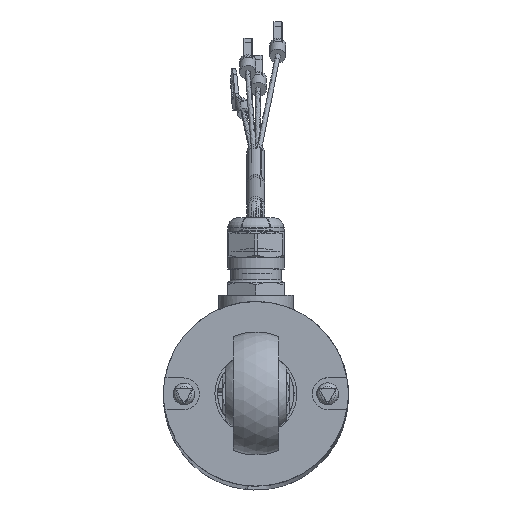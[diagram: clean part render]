
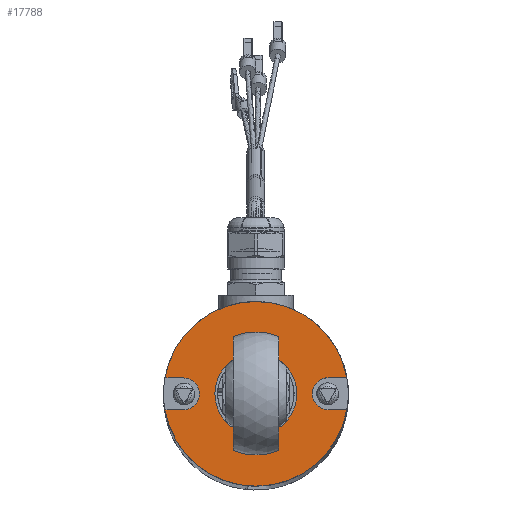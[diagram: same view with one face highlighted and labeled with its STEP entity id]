
A CAD part, top view. The second image highlights one B-rep face of the part: STEP entity #17788.
In plain terms, the highlighted planar face has unit normal (0, 0, 1).
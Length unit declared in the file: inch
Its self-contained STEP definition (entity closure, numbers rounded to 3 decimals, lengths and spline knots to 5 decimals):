
#508=FACE_BOUND('',#2244,.T.);
#631=PLANE('',#19120);
#1182=FACE_OUTER_BOUND('',#2243,.T.);
#2243=EDGE_LOOP('',(#11320,#11321,#11322,#11323,#11324,#11325,#11326,#11327,
#11328));
#2244=EDGE_LOOP('',(#11329));
#3843=CIRCLE('',#19079,0.70866);
#3854=CIRCLE('',#19098,0.70866);
#3856=CIRCLE('',#19100,0.70866);
#3862=CIRCLE('',#19111,0.12303);
#3864=CIRCLE('',#19115,0.12303);
#3866=CIRCLE('',#19121,0.15945);
#4669=LINE('',#25674,#5820);
#4672=LINE('',#25680,#5823);
#4677=LINE('',#25698,#5828);
#4679=LINE('',#25701,#5830);
#5820=VECTOR('',#20943,0.3937);
#5823=VECTOR('',#20948,0.3937);
#5828=VECTOR('',#20969,0.3937);
#5830=VECTOR('',#20973,0.3937);
#6956=VERTEX_POINT('',#25580);
#6957=VERTEX_POINT('',#25582);
#6972=VERTEX_POINT('',#25647);
#6975=VERTEX_POINT('',#25653);
#6976=VERTEX_POINT('',#25655);
#6982=VERTEX_POINT('',#25673);
#6984=VERTEX_POINT('',#25679);
#6986=VERTEX_POINT('',#25689);
#6987=VERTEX_POINT('',#25690);
#6990=VERTEX_POINT('',#25705);
#8627=EDGE_CURVE('',#6957,#6956,#3843,.T.);
#8651=EDGE_CURVE('',#6972,#6957,#3854,.T.);
#8655=EDGE_CURVE('',#6976,#6975,#3856,.T.);
#8664=EDGE_CURVE('',#6982,#6976,#4669,.T.);
#8667=EDGE_CURVE('',#6956,#6984,#4672,.T.);
#8670=EDGE_CURVE('',#6984,#6982,#3862,.T.);
#8672=EDGE_CURVE('',#6986,#6987,#3864,.T.);
#8676=EDGE_CURVE('',#6987,#6972,#4677,.T.);
#8678=EDGE_CURVE('',#6975,#6986,#4679,.T.);
#8680=EDGE_CURVE('',#6990,#6990,#3866,.T.);
#11320=ORIENTED_EDGE('',*,*,#8667,.T.);
#11321=ORIENTED_EDGE('',*,*,#8670,.T.);
#11322=ORIENTED_EDGE('',*,*,#8664,.T.);
#11323=ORIENTED_EDGE('',*,*,#8655,.T.);
#11324=ORIENTED_EDGE('',*,*,#8678,.T.);
#11325=ORIENTED_EDGE('',*,*,#8672,.T.);
#11326=ORIENTED_EDGE('',*,*,#8676,.T.);
#11327=ORIENTED_EDGE('',*,*,#8651,.T.);
#11328=ORIENTED_EDGE('',*,*,#8627,.T.);
#11329=ORIENTED_EDGE('',*,*,#8680,.T.);
#17788=ADVANCED_FACE('',(#1182,#508),#631,.T.);
#19079=AXIS2_PLACEMENT_3D('',#25583,#20867,#20868);
#19098=AXIS2_PLACEMENT_3D('',#25648,#20916,#20917);
#19100=AXIS2_PLACEMENT_3D('',#25656,#20922,#20923);
#19111=AXIS2_PLACEMENT_3D('',#25685,#20953,#20954);
#19115=AXIS2_PLACEMENT_3D('',#25691,#20961,#20962);
#19120=AXIS2_PLACEMENT_3D('',#25704,#20977,#20978);
#19121=AXIS2_PLACEMENT_3D('',#25706,#20979,#20980);
#20867=DIRECTION('center_axis',(0.,0.,1.));
#20868=DIRECTION('ref_axis',(1.,0.,0.));
#20916=DIRECTION('center_axis',(0.,0.,1.));
#20917=DIRECTION('ref_axis',(1.,0.,0.));
#20922=DIRECTION('center_axis',(0.,0.,1.));
#20923=DIRECTION('ref_axis',(1.,0.,0.));
#20943=DIRECTION('',(-1.,-0.001,0.));
#20948=DIRECTION('',(1.,0.001,0.));
#20953=DIRECTION('center_axis',(0.,0.,-1.));
#20954=DIRECTION('ref_axis',(-0.001,1.,0.));
#20961=DIRECTION('center_axis',(0.,0.,-1.));
#20962=DIRECTION('ref_axis',(0.001,-1.,0.));
#20969=DIRECTION('',(1.,0.001,0.));
#20973=DIRECTION('',(-1.,-0.001,0.));
#20977=DIRECTION('center_axis',(0.,0.,1.));
#20978=DIRECTION('ref_axis',(1.,0.,0.));
#20979=DIRECTION('center_axis',(0.,0.,-1.));
#20980=DIRECTION('ref_axis',(1.,0.,0.));
#25580=CARTESIAN_POINT('',(-0.69806,0.12214,0.59055));
#25582=CARTESIAN_POINT('',(0.,0.70866,0.59055));
#25583=CARTESIAN_POINT('Origin',(0.,0.,0.59055));
#25647=CARTESIAN_POINT('',(0.69774,0.12392,0.59055));
#25648=CARTESIAN_POINT('Origin',(0.,0.,0.59055));
#25653=CARTESIAN_POINT('',(0.69806,-0.12214,0.59055));
#25655=CARTESIAN_POINT('',(-0.69774,-0.12392,0.59055));
#25656=CARTESIAN_POINT('Origin',(0.,0.,0.59055));
#25673=CARTESIAN_POINT('',(-0.55595,-0.12374,0.59055));
#25674=CARTESIAN_POINT('',(-0.34879,-0.12348,0.59055));
#25679=CARTESIAN_POINT('',(-0.55626,0.12232,0.59055));
#25680=CARTESIAN_POINT('',(-0.27821,0.12268,0.59055));
#25685=CARTESIAN_POINT('Origin',(-0.5561,-0.00071,
0.59055));
#25689=CARTESIAN_POINT('',(0.55626,-0.12232,0.59055));
#25690=CARTESIAN_POINT('',(0.55595,0.12374,0.59055));
#25691=CARTESIAN_POINT('Origin',(0.5561,0.00071,
0.59055));
#25698=CARTESIAN_POINT('',(0.34879,0.12348,0.59055));
#25701=CARTESIAN_POINT('',(0.27821,-0.12268,0.59055));
#25704=CARTESIAN_POINT('Origin',(0.,0.,0.59055));
#25705=CARTESIAN_POINT('',(-0.15945,0.,0.59055));
#25706=CARTESIAN_POINT('Origin',(0.,0.,0.59055));
